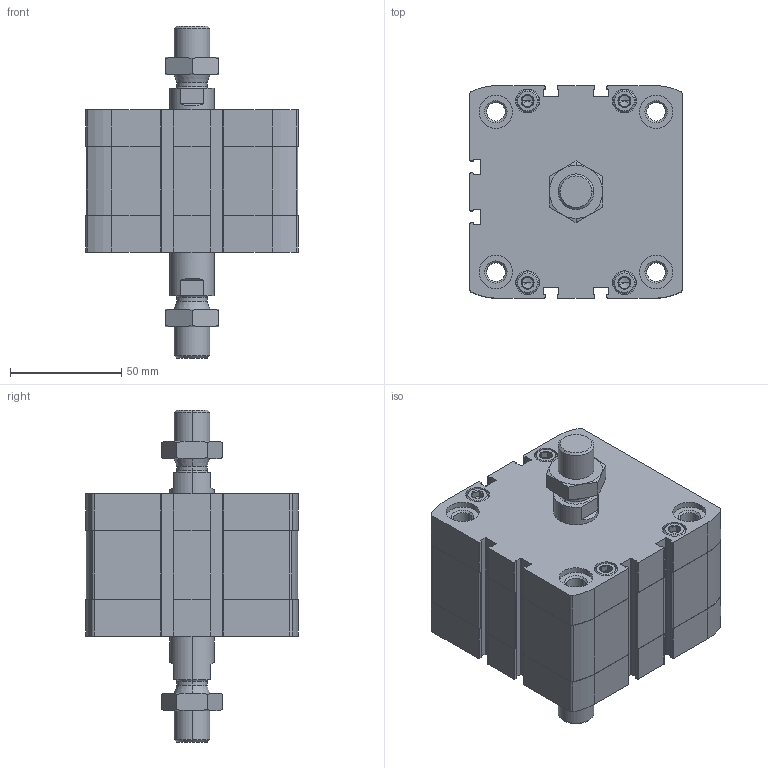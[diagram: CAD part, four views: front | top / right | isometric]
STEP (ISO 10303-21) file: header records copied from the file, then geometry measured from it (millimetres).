
FILE_DESCRIPTION (( 'STEP AP203' ), '1' );
FILE_NAME ('CCN80-10-P.STEP', '2020-06-22T19:05:00', ( '' ), ( '' ), 'SwSTEP 2.0', 'SolidWorks 2019', '' );
FILE_SCHEMA (( 'CONFIG_CONTROL_DESIGN' ));
Length unit declared in the file: millimetre
Products named in the file (1): CCN80-10-P
Bounding box: 95.5 x 95.5 x 149.2 mm (x, y, z)
Volume: 522913.5 mm3; surface area: 101422.6 mm2
Topology: 4 solids, 4 shells, 544 faces, 1352 edges, 848 vertices
Faces by surface type: plane 248, cylinder 196, cone 92, torus 8
Entity records: 17807 total; most frequent: CARTESIAN_POINT 4577, DIRECTION 2866, ORIENTED_EDGE 2672, EDGE_CURVE 1336, AXIS2_PLACEMENT_3D 1077, VERTEX_POINT 848, VECTOR 712, LINE 712
